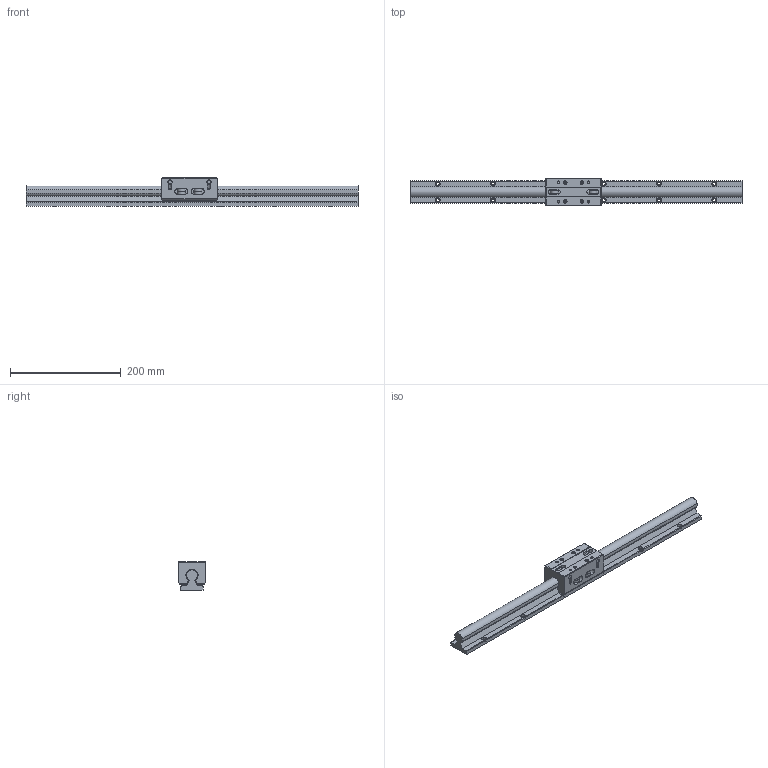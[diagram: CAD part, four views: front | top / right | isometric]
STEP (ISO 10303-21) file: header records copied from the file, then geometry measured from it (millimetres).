
FILE_DESCRIPTION((''),'2;1');
FILE_NAME('D:\製品 (図面)\カタログ用3D\リニアガイド関連\STEP形式\LTGW\LTGW20.stp','2010-06-02T16:07:26',('Tsuchiya'),(''),'Autodesk Inventor 10','Autodesk Inventor 10','');
FILE_SCHEMA(('AUTOMOTIVE_DESIGN { 1 0 10303 214 1 1 1 1 }'));
Length unit declared in the file: millimetre
Products named in the file (3): LTGW20; LTGW201; LTGW202
Assembly tree (2 placements, depth 2):
  LTGW20
    LTGW201
    LTGW202
Bounding box: 600 x 50 x 52 mm (x, y, z)
Volume: 585328.8 mm3; surface area: 132640.3 mm2
Topology: 2 solids, 2 shells, 359 faces, 869 edges, 562 vertices
Faces by surface type: bspline 173, plane 104, cylinder 51, cone 26, torus 5
Full cylindrical faces by diameter (mm): 4.917 x2, 5 x5, 5.5 x5, 6.5 x5, 8 x7, 14 x3, 15 x4
Entity records: 11528 total; most frequent: CARTESIAN_POINT 4532, ORIENTED_EDGE 1334, DIRECTION 1225, EDGE_CURVE 667, EDGE_LOOP 603, VERTEX_POINT 508, AXIS2_PLACEMENT_3D 465, FACE_OUTER_BOUND 359
